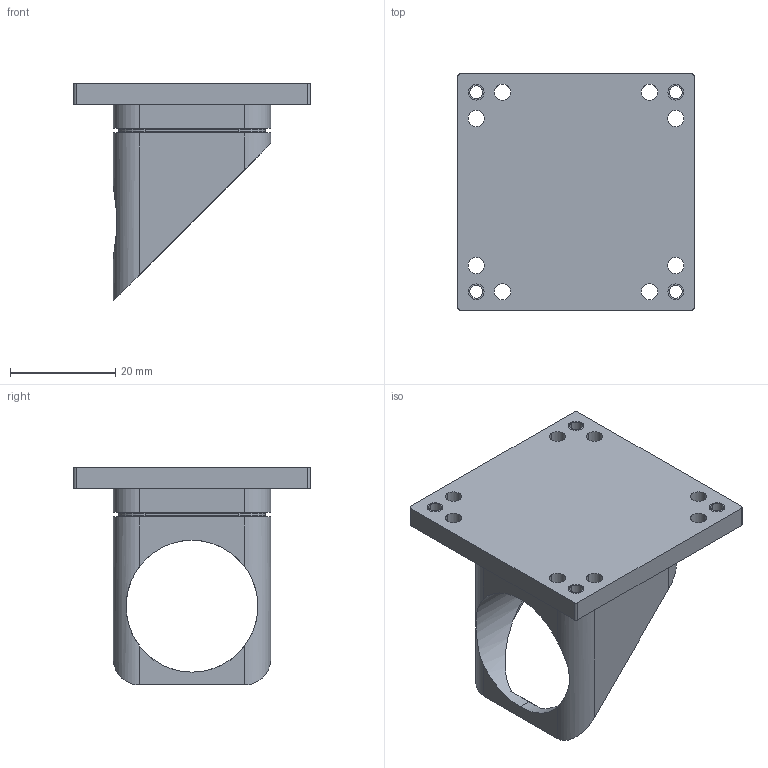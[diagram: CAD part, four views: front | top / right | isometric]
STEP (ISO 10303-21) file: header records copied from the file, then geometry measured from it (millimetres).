
FILE_DESCRIPTION(/* description */ ('VariCAD 2017-2.10 AP-214'),/* implementation_level */ '2;1');
FILE_NAME(/* name */ '05_dichroic_holder.stp',/* time_stamp */ '2023-12-21T11:01:55+02:00',/* author */ (''),/* organization */ (''),/* preprocessor_version */ 'VariCAD 2017-2.10',/* originating_system */ 'VariCAD 2017-2.10; kernel version (20130303)',/* authorisation */ '');
FILE_SCHEMA(('AUTOMOTIVE_DESIGN'));
Length unit declared in the file: millimetre
Products named in the file (2): 05_dichroic_holder
Assembly tree (1 placements, depth 2):
  05_dichroic_holder
    (unnamed)
Bounding box: 45 x 45 x 41.5 mm (x, y, z)
Volume: 19759.2 mm3; surface area: 8210.4 mm2
Topology: 1 solids, 1 shells, 117 faces, 303 edges, 204 vertices
Faces by surface type: cylinder 66, plane 43, torus 8
Entity records: 4540 total; most frequent: CARTESIAN_POINT 758, DIRECTION 697, ORIENTED_EDGE 606, EDGE_CURVE 303, AXIS2_PLACEMENT_3D 283, VERTEX_POINT 204, CIRCLE 162, EDGE_LOOP 159
